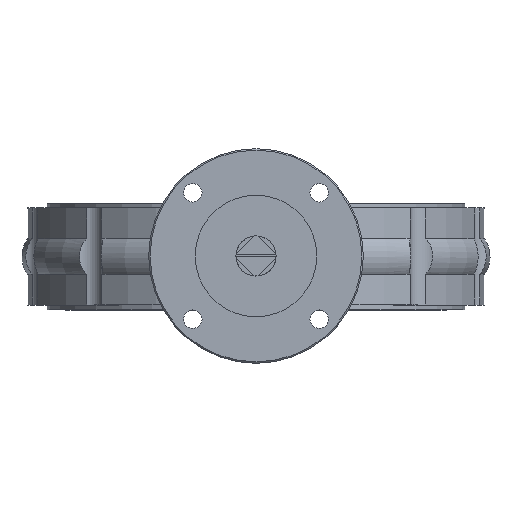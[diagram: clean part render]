
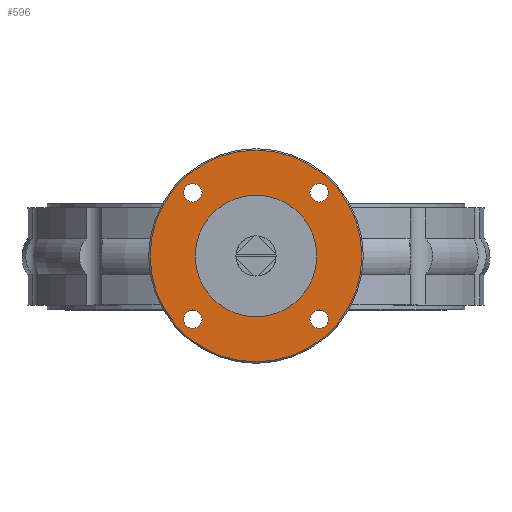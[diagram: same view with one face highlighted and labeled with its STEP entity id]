
A CAD part, top view. The second image highlights one B-rep face of the part: STEP entity #596.
In plain terms, the highlighted planar face has unit normal (0, 0, 1).
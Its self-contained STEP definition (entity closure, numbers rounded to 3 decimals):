
#596 = ADVANCED_FACE( '', ( #1225, #1226, #1227, #1228, #1229, #1230 ), #1231, .T. );
#1225 = FACE_OUTER_BOUND( '', #3375, .T. );
#1226 = FACE_BOUND( '', #3376, .T. );
#1227 = FACE_BOUND( '', #3377, .T. );
#1228 = FACE_BOUND( '', #3378, .T. );
#1229 = FACE_BOUND( '', #3379, .T. );
#1230 = FACE_BOUND( '', #3380, .T. );
#1231 = PLANE( '', #3381 );
#3375 = EDGE_LOOP( '', ( #5391 ) );
#3376 = EDGE_LOOP( '', ( #5392 ) );
#3377 = EDGE_LOOP( '', ( #5393 ) );
#3378 = EDGE_LOOP( '', ( #5394 ) );
#3379 = EDGE_LOOP( '', ( #5395 ) );
#3380 = EDGE_LOOP( '', ( #5396 ) );
#3381 = AXIS2_PLACEMENT_3D( '', #5397, #5398, #5399 );
#5391 = ORIENTED_EDGE( '', *, *, #6026, .T. );
#5392 = ORIENTED_EDGE( '', *, *, #5689, .T. );
#5393 = ORIENTED_EDGE( '', *, *, #6029, .T. );
#5394 = ORIENTED_EDGE( '', *, *, #6125, .T. );
#5395 = ORIENTED_EDGE( '', *, *, #5872, .T. );
#5396 = ORIENTED_EDGE( '', *, *, #6080, .T. );
#5397 = CARTESIAN_POINT( '', ( 0., 36.176, 275. ) );
#5398 = DIRECTION( '', ( 0., 0., 1. ) );
#5399 = DIRECTION( '', ( 1., 0., 0. ) );
#5689 = EDGE_CURVE( '', #6609, #6609, #6610, .T. );
#5872 = EDGE_CURVE( '', #6896, #6896, #6897, .T. );
#6026 = EDGE_CURVE( '', #7120, #7120, #7121, .T. );
#6029 = EDGE_CURVE( '', #7125, #7125, #7126, .T. );
#6080 = EDGE_CURVE( '', #7187, #7187, #7188, .T. );
#6125 = EDGE_CURVE( '', #7242, #7242, #7243, .T. );
#6609 = VERTEX_POINT( '', #8265 );
#6610 = CIRCLE( '', #8266, 6.5 );
#6896 = VERTEX_POINT( '', #9212 );
#6897 = CIRCLE( '', #9213, 6.5 );
#7120 = VERTEX_POINT( '', #10171 );
#7121 = CIRCLE( '', #10172, 74. );
#7125 = VERTEX_POINT( '', #10176 );
#7126 = CIRCLE( '', #10177, 6.5 );
#7187 = VERTEX_POINT( '', #10291 );
#7188 = CIRCLE( '', #10292, 6.5 );
#7242 = VERTEX_POINT( '', #10760 );
#7243 = CIRCLE( '', #10761, 42.5 );
#8265 = CARTESIAN_POINT( '', ( -50.694, -8.018, 275. ) );
#8266 = AXIS2_PLACEMENT_3D( '', #11353, #11354, #11355 );
#9212 = CARTESIAN_POINT( '', ( -50.694, 80.37, 275. ) );
#9213 = AXIS2_PLACEMENT_3D( '', #11613, #11614, #11615 );
#10171 = CARTESIAN_POINT( '', ( 74., 36.176, 275. ) );
#10172 = AXIS2_PLACEMENT_3D( '', #11763, #11764, #11765 );
#10176 = CARTESIAN_POINT( '', ( 37.694, -8.018, 275. ) );
#10177 = AXIS2_PLACEMENT_3D( '', #11769, #11770, #11771 );
#10291 = CARTESIAN_POINT( '', ( 37.694, 80.37, 275. ) );
#10292 = AXIS2_PLACEMENT_3D( '', #11826, #11827, #11828 );
#10760 = CARTESIAN_POINT( '', ( -42.5, 36.176, 275. ) );
#10761 = AXIS2_PLACEMENT_3D( '', #11869, #11870, #11871 );
#11353 = CARTESIAN_POINT( '', ( -44.194, -8.018, 275. ) );
#11354 = DIRECTION( '', ( 0., 0., -1. ) );
#11355 = DIRECTION( '', ( -1., 0., 0. ) );
#11613 = CARTESIAN_POINT( '', ( -44.194, 80.37, 275. ) );
#11614 = DIRECTION( '', ( 0., 0., -1. ) );
#11615 = DIRECTION( '', ( -1., 0., 0. ) );
#11763 = CARTESIAN_POINT( '', ( 0., 36.176, 275. ) );
#11764 = DIRECTION( '', ( 0., 0., 1. ) );
#11765 = DIRECTION( '', ( 1., 0., 0. ) );
#11769 = CARTESIAN_POINT( '', ( 44.194, -8.018, 275. ) );
#11770 = DIRECTION( '', ( 0., 0., -1. ) );
#11771 = DIRECTION( '', ( -1., 0., 0. ) );
#11826 = CARTESIAN_POINT( '', ( 44.194, 80.37, 275. ) );
#11827 = DIRECTION( '', ( 0., 0., -1. ) );
#11828 = DIRECTION( '', ( -1., 0., 0. ) );
#11869 = CARTESIAN_POINT( '', ( 0., 36.176, 275. ) );
#11870 = DIRECTION( '', ( 0., 0., -1. ) );
#11871 = DIRECTION( '', ( -1., 0., 0. ) );
